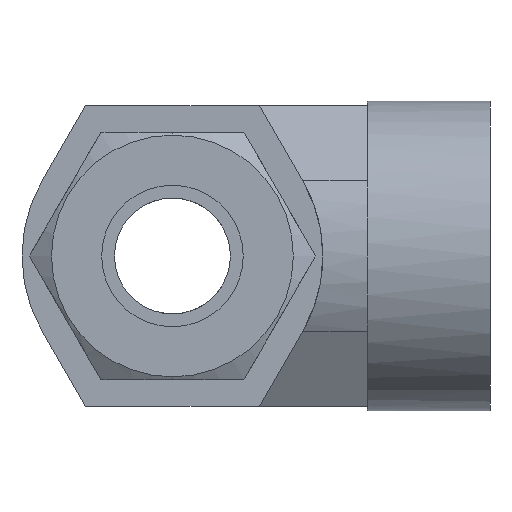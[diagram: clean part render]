
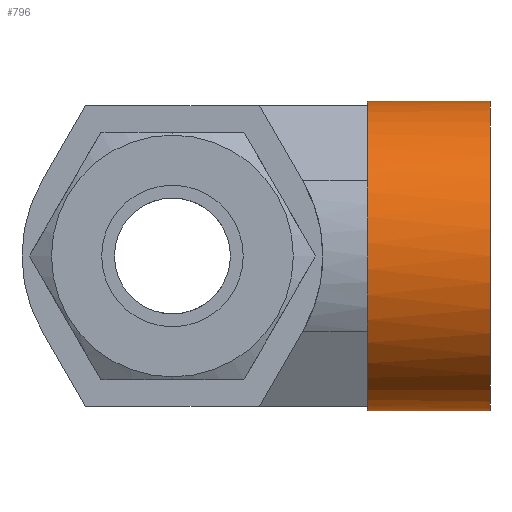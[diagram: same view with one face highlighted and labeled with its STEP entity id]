
A CAD part, left-side view. The second image highlights one B-rep face of the part: STEP entity #796.
In plain terms, the highlighted cylindrical face has radius 13.9 mm (diameter 27.8 mm), a partial arc.
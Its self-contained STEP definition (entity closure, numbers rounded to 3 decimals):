
#308 = VERTEX_POINT ( 'NONE', #1660 ) ;
#310 = EDGE_CURVE ( 'NONE', #340, #308, #1659, .T. ) ;
#339 = VERTEX_POINT ( 'NONE', #1755 ) ;
#340 = VERTEX_POINT ( 'NONE', #1750 ) ;
#363 = VERTEX_POINT ( 'NONE', #1776 ) ;
#382 = EDGE_CURVE ( 'NONE', #339, #363, #1833, .T. ) ;
#402 = EDGE_CURVE ( 'NONE', #403, #404, #1926, .T. ) ;
#403 = VERTEX_POINT ( 'NONE', #1921 ) ;
#404 = VERTEX_POINT ( 'NONE', #1920 ) ;
#413 = EDGE_CURVE ( 'NONE', #414, #415, #1903, .T. ) ;
#414 = VERTEX_POINT ( 'NONE', #1899 ) ;
#415 = VERTEX_POINT ( 'NONE', #1898 ) ;
#789 = EDGE_CURVE ( 'NONE', #404, #414, #2538, .T. ) ;
#795 = EDGE_CURVE ( 'NONE', #415, #363, #2530, .T. ) ;
#796 = ADVANCED_FACE ( 'NONE', ( #2522 ), #2521, .T. ) ;
#797 = EDGE_LOOP ( 'NONE', ( #798, #799, #851, #852, #853, #854, #855, #856 ) ) ;
#798 = ORIENTED_EDGE ( 'NONE', *, *, #382, .F. ) ;
#799 = ORIENTED_EDGE ( 'NONE', *, *, #800, .F. ) ;
#800 = EDGE_CURVE ( 'NONE', #340, #339, #2578, .T. ) ;
#807 = EDGE_CURVE ( 'NONE', #308, #403, #2570, .T. ) ;
#851 = ORIENTED_EDGE ( 'NONE', *, *, #310, .T. ) ;
#852 = ORIENTED_EDGE ( 'NONE', *, *, #807, .T. ) ;
#853 = ORIENTED_EDGE ( 'NONE', *, *, #402, .T. ) ;
#854 = ORIENTED_EDGE ( 'NONE', *, *, #789, .T. ) ;
#855 = ORIENTED_EDGE ( 'NONE', *, *, #413, .T. ) ;
#856 = ORIENTED_EDGE ( 'NONE', *, *, #795, .T. ) ;
#1656 = DIRECTION ( 'NONE',  ( 0., 1., 0. ) ) ;
#1657 = VECTOR ( 'NONE', #1656, 1000. ) ;
#1658 = CARTESIAN_POINT ( 'NONE',  ( 0., -28.5, 13.9 ) ) ;
#1659 = LINE ( 'NONE', #1658, #1657 ) ;
#1660 = CARTESIAN_POINT ( 'NONE',  ( 0., -17.5, 13.9 ) ) ;
#1750 = CARTESIAN_POINT ( 'NONE',  ( 0., -28.5, 13.9 ) ) ;
#1755 = CARTESIAN_POINT ( 'NONE',  ( 0., -28.5, -13.9 ) ) ;
#1776 = CARTESIAN_POINT ( 'NONE',  ( 0., -17.5, -13.9 ) ) ;
#1832 = CARTESIAN_POINT ( 'NONE',  ( 0., -28.5, -13.9 ) ) ;
#1833 = LINE ( 'NONE', #1832, #1896 ) ;
#1895 = DIRECTION ( 'NONE',  ( 0., 1., 0. ) ) ;
#1896 = VECTOR ( 'NONE', #1895, 1000. ) ;
#1898 = CARTESIAN_POINT ( 'NONE',  ( -3.311, -17.5, -13.5 ) ) ;
#1899 = CARTESIAN_POINT ( 'NONE',  ( -10.036, -17.5, -9.617 ) ) ;
#1900 = DIRECTION ( 'NONE',  ( 0., 0., -1. ) ) ;
#1901 = DIRECTION ( 'NONE',  ( 0., -1., 0. ) ) ;
#1902 = AXIS2_PLACEMENT_3D ( 'NONE', #1907, #1901, #1900 ) ;
#1903 = CIRCLE ( 'NONE', #1902, 13.9 ) ;
#1907 = CARTESIAN_POINT ( 'NONE',  ( 0., -17.5, 0. ) ) ;
#1920 = CARTESIAN_POINT ( 'NONE',  ( -10.036, -17.5, 9.617 ) ) ;
#1921 = CARTESIAN_POINT ( 'NONE',  ( -3.311, -17.5, 13.5 ) ) ;
#1922 = DIRECTION ( 'NONE',  ( 0., 0., -1. ) ) ;
#1923 = DIRECTION ( 'NONE',  ( 0., -1., 0. ) ) ;
#1924 = CARTESIAN_POINT ( 'NONE',  ( 0., -17.5, 0. ) ) ;
#1925 = AXIS2_PLACEMENT_3D ( 'NONE', #1924, #1923, #1922 ) ;
#1926 = CIRCLE ( 'NONE', #1925, 13.9 ) ;
#2518 = DIRECTION ( 'NONE',  ( 0., 1., 0. ) ) ;
#2519 = CARTESIAN_POINT ( 'NONE',  ( 0., -28.5, 0. ) ) ;
#2520 = AXIS2_PLACEMENT_3D ( 'NONE', #2519, #2518, #2579 ) ;
#2521 = CYLINDRICAL_SURFACE ( 'NONE', #2520, 13.9 ) ;
#2522 = FACE_OUTER_BOUND ( 'NONE', #797, .T. ) ;
#2523 = DIRECTION ( 'NONE',  ( 0., 0., -1. ) ) ;
#2524 = DIRECTION ( 'NONE',  ( 0., -1., 0. ) ) ;
#2525 = CARTESIAN_POINT ( 'NONE',  ( 0., -17.5, 0. ) ) ;
#2526 = AXIS2_PLACEMENT_3D ( 'NONE', #2525, #2524, #2523 ) ;
#2530 = CIRCLE ( 'NONE', #2526, 13.9 ) ;
#2534 = DIRECTION ( 'NONE',  ( 0., 0., -1. ) ) ;
#2535 = DIRECTION ( 'NONE',  ( 0., -1., 0. ) ) ;
#2536 = CARTESIAN_POINT ( 'NONE',  ( 0., -17.5, 0. ) ) ;
#2537 = AXIS2_PLACEMENT_3D ( 'NONE', #2536, #2535, #2534 ) ;
#2538 = CIRCLE ( 'NONE', #2537, 13.9 ) ;
#2563 = DIRECTION ( 'NONE',  ( 0., 0., -1. ) ) ;
#2564 = DIRECTION ( 'NONE',  ( 0., -1., 0. ) ) ;
#2565 = CARTESIAN_POINT ( 'NONE',  ( 0., -17.5, 0. ) ) ;
#2566 = AXIS2_PLACEMENT_3D ( 'NONE', #2565, #2564, #2563 ) ;
#2570 = CIRCLE ( 'NONE', #2566, 13.9 ) ;
#2574 = DIRECTION ( 'NONE',  ( 0., 0., -1. ) ) ;
#2575 = DIRECTION ( 'NONE',  ( 0., -1., 0. ) ) ;
#2576 = CARTESIAN_POINT ( 'NONE',  ( 0., -28.5, 0. ) ) ;
#2577 = AXIS2_PLACEMENT_3D ( 'NONE', #2576, #2575, #2574 ) ;
#2578 = CIRCLE ( 'NONE', #2577, 13.9 ) ;
#2579 = DIRECTION ( 'NONE',  ( 0., 0., 1. ) ) ;
